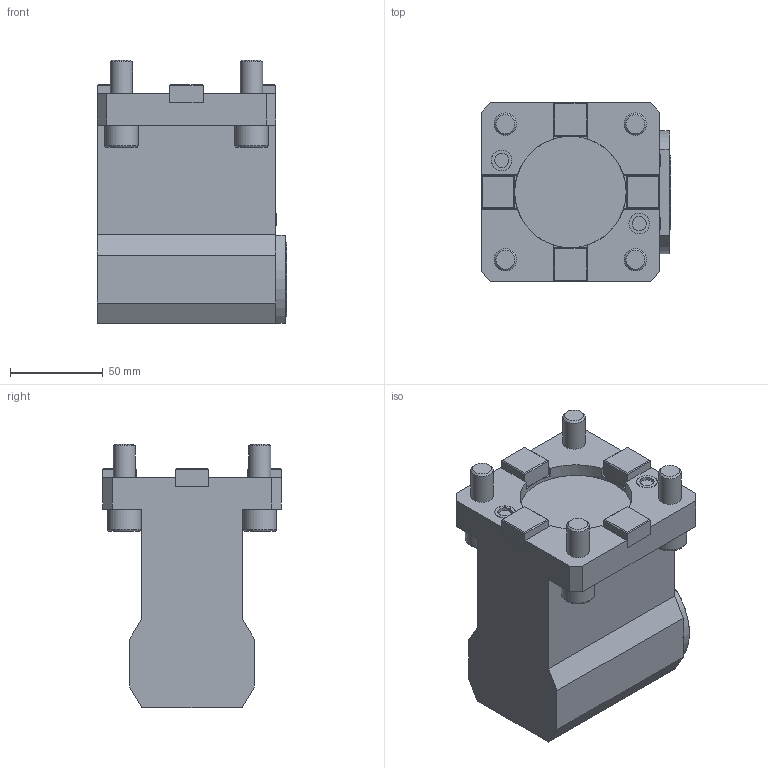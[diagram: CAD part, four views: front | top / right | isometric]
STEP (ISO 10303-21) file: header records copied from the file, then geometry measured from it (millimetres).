
FILE_DESCRIPTION(/* description */ (''),/* implementation_level */ '2;1');
FILE_NAME(/* name */ '198080',/* time_stamp */ '2022-01-19T10:38:23+01:00',/* author */ (''),/* organization */ (''),/* preprocessor_version */ 'ST-DEVELOPER v16.5',/* originating_system */ 'HiCAD 2017 2201.0 Build 268',/* authorisation */ '');
FILE_SCHEMA (('AUTOMOTIVE_DESIGN { 1 0 10303 214 1 1 1 1 }'));
Length unit declared in the file: millimetre
Products named in the file (50): Root; Leeres Teil; TRANSLATIONSTEIL_0; ROTATIONSTEIL_0; DIN 912      (Innensechskant)_Zylinderschraube 12x35; GEWINDE; 173501_Kantsealring 7.65x1.68_358*; ROTATIONSTEIL_0_210*; DIN 13-M12x1; KUGEL_0; DIN 13-M6; 114153_O-Ring 7x2_332*; Baugruppe Capto_Baugruppe; 197506_Handspanner Berg C4_280*; 786.18583.106.1.01; 777.18468.002.1.01; 18468_Zugfeder_745.18468.015.0; 765.18468.001.0.01.02; O-Ring_1.50-AD16.00; 18468_SB26; 763.18468.001.1; 18583_O-Ring_1.50-AD23; GEHÄUSE KOMBIHALTER_130*; SLEEVE_C4-STEHEND_120*
Assembly tree (49 placements, depth 6):
  Root
    Leeres Teil
      Leeres Teil
        Leeres Teil
          TRANSLATIONSTEIL_0
          TRANSLATIONSTEIL_0
          TRANSLATIONSTEIL_0
          TRANSLATIONSTEIL_0
        ROTATIONSTEIL_0
      Leeres Teil
        DIN 912      (Innensechskant)_Zylinderschraube 12x35
          GEWINDE
        DIN 912      (Innensechskant)_Zylinderschraube 12x35
          GEWINDE
        DIN 912      (Innensechskant)_Zylinderschraube 12x35
          GEWINDE
        DIN 912      (Innensechskant)_Zylinderschraube 12x35
          GEWINDE
      Leeres Teil
        173501_Kantsealring 7.65x1.68_358*
        173501_Kantsealring 7.65x1.68_358*
        ROTATIONSTEIL_0_210*
          DIN 13-M12x1
          KUGEL_0
            DIN 13-M6
          114153_O-Ring 7x2_332*
        ROTATIONSTEIL_0_210*
          DIN 13-M12x1
          KUGEL_0
            DIN 13-M6
          114153_O-Ring 7x2_332*
      Leeres Teil
      Baugruppe Capto_Baugruppe
        197506_Handspanner Berg C4_280*
          786.18583.106.1.01
          777.18468.002.1.01
          777.18468.002.1.01
          18468_Zugfeder_745.18468.015.0
          765.18468.001.0.01.02
          O-Ring_1.50-AD16.00
          765.18468.001.0.01.02
          18468_SB26
          763.18468.001.1
          765.18468.001.0.01.02
          765.18468.001.0.01.02
          765.18468.001.0.01.02
          18583_O-Ring_1.50-AD23
          765.18468.001.0.01.02
        GEHÄUSE KOMBIHALTER_130*
        SLEEVE_C4-STEHEND_120*
Bounding box: 102 x 96 x 142 mm (x, y, z)
Volume: 765568.9 mm3; surface area: 96341.5 mm2
Topology: 33 solids, 33 shells, 383 faces, 885 edges, 571 vertices
Faces by surface type: plane 235, cylinder 62, cone 60, torus 24, sphere 2
Full cylindrical faces by diameter (mm): 5 x2, 6 x4, 7.65 x2, 10.2 x8, 11.01 x2, 11.1 x2, 12 x4, 14.2 x1, 18 x4, 31.6 x1, 40 x1, 40.03 x2, 60 x1
Entity records: 20077 total; most frequent: CARTESIAN_POINT 2439, DIRECTION 2110, PRESENTATION_STYLE_ASSIGNMENT 1633, ORIENTED_EDGE 1620, COLOUR_RGB 1609, DRAUGHTING_PRE_DEFINED_CURVE_FONT 1604, CURVE_STYLE 1604, OVER_RIDING_STYLED_ITEM 1604
